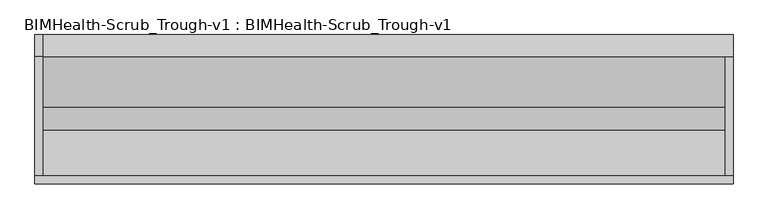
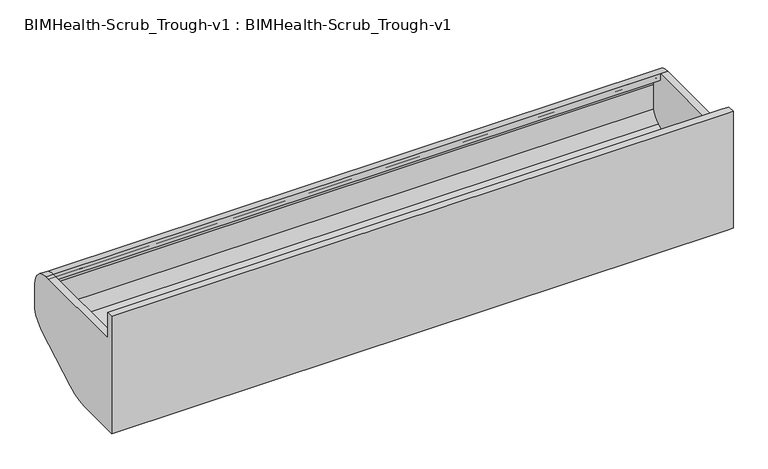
"""IFC4 building model written with IfcOpenShell, lengths in millimetres: furniture geometry, BIMHealth-Scrub_Trough-v1 : BIMHealth-Scrub_Trough-v1."""

from ifc_helpers import new_model, si_unit, frame, origin, place, context, project, spatial, polyline, circle_curve, source, transform, mapped, element, save
from ifc_brep_helpers import plane_surface, cylinder_surface, revolved_surface, advanced_brep


def bimhealth_scrub_trough_v1_bimhealth_scrub_trough_v1_64e28580(model_context):
    return source(origin(), model_context, "Body", "AdvancedBrep", [
        advanced_brep(
        [(-856.6322871, 20.0, 421.2537169), (-856.6322871, 20.0, 166.6601811), (-856.6322871, 134.4044009, 166.6601811), (-856.6322871, 191.8868639, 183.9806892), (-856.6322871, 330.4509285, 263.9806892), (-856.6322871, 355.0919447, 294.1560226), (-856.6322871, 355.0919447, 366.1617722), (-856.6322871, 320.0, 401.2537169), (-856.6322871, 320.0, 421.2537169), (-876.6322871, 20.0, 496.2537169), (-876.6322871, 20.0, 421.2537169), (-876.6322871, 320.0, 421.2537169), (-876.6322871, 375.0919447, 366.1617722), (-876.6322871, 375.0919447, 291.1617722), (-876.6322871, 340.4509285, 246.6601811), (-876.6322871, 201.8868639, 166.6601811), (-876.6322871, 135.0, 146.6601811), (-876.6322871, 0.0, 146.6601811), (-876.6322871, 0.0, 496.2537169), (856.6322871, 20.0, 496.2537169), (876.6322871, 20.0, 496.2537169), (876.6322871, 20.0, 421.2537169), (856.6322871, 20.0, 421.2537169), (856.6322871, 20.0, 166.6601811), (-856.6322871, 375.0919447, 366.1617722), (856.6322871, 375.0919447, 366.1617722), (876.6322871, 375.0919447, 366.1617722), (876.6322871, 375.0919447, 291.1617722), (856.6322871, 375.0919447, 291.1617722), (-856.6322871, 375.0919447, 291.1617722), (-856.6322871, 340.4509285, 246.6601811), (856.6322871, 340.4509285, 246.6601811), (876.6322871, 340.4509285, 246.6601811), (876.6322871, 201.8868639, 166.6601811), (856.6322871, 201.8868639, 166.6601811), (-856.6322871, 201.8868639, 166.6601811), (-856.6322871, 135.0, 146.6601811), (856.6322871, 135.0, 146.6601811), (876.6322871, 135.0, 146.6601811), (876.6322871, 0.0, 146.6601811), (856.6322871, 0.0, 146.6601811), (876.6322871, 0.0, 496.2537169), (856.6322871, 0.0, 496.2537169), (876.6322871, 320.0, 421.2537169), (856.6322871, 134.4044009, 166.6601811), (856.6322871, 191.8868639, 183.9806892), (856.6322871, 330.4509285, 263.9806892), (856.6322871, 355.0919447, 294.1560226), (856.6322871, 355.0919447, 366.1617722), (856.6322871, 320.0, 401.2537169), (856.6322871, 320.0, 421.2537169)],
        [
            (0, 1),
            (1, 2),
            (2, 3, circle_curve(frame((-856.6322871, 126.3135281, 297.5570384), z_axis=(1.0, 0.0, 0.0), x_axis=(0.0, -1.0, 0.0)), 131.1466716)),
            (3, 4),
            (4, 5, circle_curve(frame((-856.6322871, 302.9798936, 311.5619174), z_axis=(1.0, 0.0, 0.0), x_axis=(0.0, -1.0, 0.0)), 54.9420699)),
            (5, 6),
            (6, 7, circle_curve(frame((-856.6322871, 320.0, 366.1617722), z_axis=(1.0, 0.0, 0.0), x_axis=(0.0, -1.0, 0.0)), 35.0919447)),
            (7, 8),
            (8, 0),
            (9, 10),
            (10, 11),
            (11, 12, circle_curve(frame((-876.6322871, 320.0, 366.1617722), z_axis=(-1.0, 0.0, 0.0), x_axis=(0.0, 0.0, 1.0)), 55.0919447)),
            (12, 13),
            (13, 14, circle_curve(frame((-876.6322871, 302.9798936, 311.5619174), z_axis=(-1.0, 0.0, 0.0), x_axis=(0.0, 0.0, 1.0)), 74.9420699)),
            (14, 15),
            (15, 16, circle_curve(frame((-876.6322871, 126.3135281, 297.5570384), z_axis=(-1.0, 0.0, 0.0), x_axis=(0.0, 0.0, 1.0)), 151.1466716)),
            (16, 17),
            (17, 18),
            (18, 9),
            (9, 19),
            (19, 20),
            (20, 21),
            (21, 22),
            (22, 23),
            (23, 1),
            (0, 10),
            (8, 11),
            (8, 24, circle_curve(frame((-856.6322871, 320.0, 366.1617722), z_axis=(-1.0, 0.0, 0.0), x_axis=(0.0, 0.0, 1.0)), 55.0919447)),
            (24, 12),
            (24, 25),
            (25, 26),
            (26, 27),
            (27, 28),
            (28, 29),
            (29, 13),
            (29, 30, circle_curve(frame((-856.6322871, 302.9798936, 311.5619174), z_axis=(-1.0, 0.0, 0.0), x_axis=(0.0, 0.0, 1.0)), 74.9420699)),
            (30, 14),
            (30, 31),
            (31, 32),
            (32, 33),
            (33, 34),
            (34, 35),
            (35, 15),
            (35, 36, circle_curve(frame((-856.6322871, 126.3135281, 297.5570384), z_axis=(-1.0, 0.0, 0.0), x_axis=(0.0, 0.0, 1.0)), 151.1466716)),
            (36, 16),
            (36, 37),
            (37, 38),
            (38, 39),
            (39, 40),
            (40, 17),
            (39, 41),
            (41, 42),
            (42, 18),
            (41, 20),
            (43, 21),
            (38, 33, circle_curve(frame((876.6322871, 126.3135281, 297.5570384), z_axis=(1.0, 0.0, 0.0), x_axis=(0.0, -1.0, 0.0)), 151.1466716)),
            (32, 27, circle_curve(frame((876.6322871, 302.9798936, 311.5619174), z_axis=(1.0, 0.0, 0.0), x_axis=(0.0, -1.0, 0.0)), 74.9420699)),
            (26, 43, circle_curve(frame((876.6322871, 320.0, 366.1617722), z_axis=(1.0, 0.0, 0.0), x_axis=(0.0, -1.0, 0.0)), 55.0919447)),
            (23, 44),
            (44, 2),
            (44, 45, circle_curve(frame((856.6322871, 126.3135281, 297.5570384), z_axis=(1.0, 0.0, 0.0), x_axis=(0.0, -1.0, 0.0)), 131.1466716)),
            (45, 3),
            (45, 46),
            (46, 4),
            (46, 47, circle_curve(frame((856.6322871, 302.9798936, 311.5619174), z_axis=(1.0, 0.0, 0.0), x_axis=(0.0, -1.0, 0.0)), 54.9420699)),
            (47, 5),
            (47, 48),
            (48, 6),
            (48, 49, circle_curve(frame((856.6322871, 320.0, 366.1617722), z_axis=(1.0, 0.0, 0.0), x_axis=(0.0, -1.0, 0.0)), 35.0919447)),
            (49, 7),
            (49, 50),
            (50, 8),
            (50, 43),
            (22, 50),
        ],
        [
            plane_surface(frame((-856.6322871, 20.0, 496.2537169), z_axis=(1.0, 0.0, 0.0), x_axis=(0.0, 0.0, -1.0))),
            plane_surface(frame((-876.6322871, 20.0, 496.2537169), z_axis=(-1.0, 0.0, 0.0), x_axis=(0.0, 0.0, 1.0))),
            plane_surface(frame((-856.6322871, 20.0, 496.2537169), z_axis=(0.0, 1.0, 0.0), x_axis=(-1.0, 0.0, 0.0))),
            plane_surface(frame((-856.6322871, 20.0, 421.2537169), z_axis=(0.0, 0.0, 1.0), x_axis=(-1.0, 0.0, 0.0))),
            cylinder_surface(frame((-876.6322871, 320.0, 366.1617722), z_axis=(1.0, 0.0, 0.0), x_axis=(0.0, 0.0, 1.0)), 55.0919447),
            plane_surface(frame((-856.6322871, 375.0919447, 366.1617722), z_axis=(0.0, 1.0, 0.0), x_axis=(-1.0, 0.0, 0.0))),
            cylinder_surface(frame((-876.6322871, 302.9798936, 311.5619174), z_axis=(1.0, 0.0, 0.0), x_axis=(0.0, 0.0, 1.0)), 74.9420699),
            plane_surface(frame((-856.6322871, 340.4509285, 246.6601811), z_axis=(0.0, 0.500000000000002, -0.8660254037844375), x_axis=(-1.0, 0.0, 0.0))),
            cylinder_surface(frame((-876.6322871, 126.3135281, 297.5570384), z_axis=(1.0, 0.0, 0.0), x_axis=(0.0, 0.0, 1.0)), 151.1466716),
            plane_surface(frame((-856.6322871, 135.0, 146.6601811), z_axis=(0.0, 0.0, -1.0), x_axis=(-1.0, 0.0, 0.0))),
            plane_surface(frame((-856.6322871, 0.0, 146.6601811), z_axis=(0.0, -1.0, 0.0), x_axis=(-1.0, 0.0, 0.0))),
            plane_surface(frame((-856.6322871, 0.0, 496.2537169), z_axis=(0.0, 0.0, 1.0), x_axis=(-1.0, 0.0, 0.0))),
            plane_surface(frame((876.6322871, 20.0, 146.6601811), z_axis=(1.0, 0.0, 0.0), x_axis=(0.0, 0.0, -1.0))),
            plane_surface(frame((876.6322871, 20.0, 166.6601811), z_axis=(0.0, 0.0, 1.0), x_axis=(-1.0, 0.0, 0.0))),
            revolved_surface(polyline([(-856.6322871, -4.833143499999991, 297.5570384), (856.6322871, -4.833143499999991, 297.5570384)]), (-876.6322871, 126.3135281, 297.5570384), (-1.0, 0.0, 0.0)),
            plane_surface(frame((876.6322871, 191.8868639, 183.9806892), z_axis=(0.0, -0.4999999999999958, 0.8660254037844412), x_axis=(-1.0, 0.0, 0.0))),
            revolved_surface(polyline([(-856.6322871, 248.03782370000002, 311.5619174), (856.6322871, 248.03782370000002, 311.5619174)]), (-876.6322871, 302.9798936, 311.5619174), (-1.0, 0.0, 0.0)),
            plane_surface(frame((876.6322871, 355.0919447, 294.1560226), z_axis=(0.0, -1.0, 0.0), x_axis=(-1.0, 0.0, 0.0))),
            revolved_surface(polyline([(-856.6322871, 284.9080553, 366.1617722), (856.6322871, 284.9080553, 366.1617722)]), (-876.6322871, 320.0, 366.1617722), (-1.0, 0.0, 0.0)),
            plane_surface(frame((876.6322871, 320.0, 401.2537169), z_axis=(0.0, -1.0, 0.0), x_axis=(-1.0, 0.0, 0.0))),
            cylinder_surface(frame((-876.6322871, 320.0, 366.1617722), z_axis=(1.0, 0.0, 0.0), x_axis=(0.0, -1.0, 0.0)), 55.0919447),
            cylinder_surface(frame((-876.6322871, 302.9798936, 311.5619174), z_axis=(1.0, 0.0, 0.0), x_axis=(0.0, -1.0, 0.0)), 74.9420699),
            cylinder_surface(frame((-876.6322871, 126.3135281, 297.5570384), z_axis=(1.0, 0.0, 0.0), x_axis=(0.0, -1.0, 0.0)), 151.1466716),
            plane_surface(frame((856.6322871, 20.0, 496.2537169), z_axis=(-1.0, 0.0, 0.0), x_axis=(0.0, 0.0, 1.0))),
            plane_surface(frame((876.6322871, 20.0, 421.2537169), z_axis=(0.0, 0.0, 1.0), x_axis=(-1.0, 0.0, 0.0))),
        ],
        [
            (0, [[1, 2, 3, 4, 5, 6, 7, 8, 9]]),
            (1, [[10, 11, 12, 13, 14, 15, 16, 17, 18, 19]]),
            (2, [[20, 21, 22, 23, 24, 25, -1, 26, -10]]),
            (3, [[27, -11, -26, -9]]),
            (4, [[-27, 28, 29, -12]]),
            (5, [[-29, 30, 31, 32, 33, 34, 35, -13]]),
            (6, [[-35, 36, 37, -14]]),
            (7, [[-37, 38, 39, 40, 41, 42, 43, -15]]),
            (8, [[-43, 44, 45, -16]]),
            (9, [[-45, 46, 47, 48, 49, 50, -17]]),
            (10, [[-50, -49, 51, 52, 53, -18]]),
            (11, [[-53, -52, 54, -21, -20, -19]]),
            (12, [[55, -22, -54, -51, -48, 56, -40, 57, -32, 58]]),
            (13, [[-25, 59, 60, -2]]),
            (14, [[-60, 61, 62, -3]]),
            (15, [[-62, 63, 64, -4]]),
            (16, [[-64, 65, 66, -5]]),
            (17, [[-66, 67, 68, -6]]),
            (18, [[-68, 69, 70, -7]]),
            (19, [[-70, 71, 72, -8]]),
            (20, [[-31, -30, -28, -72, 73, -58]]),
            (21, [[-39, -38, -36, -34, -33, -57]]),
            (22, [[-47, -46, -44, -42, -41, -56]]),
            (23, [[-71, -69, -67, -65, -63, -61, -59, -24, 74]]),
            (24, [[-23, -55, -73, -74]]),
        ],
    ),
    ])


if __name__ == "__main__":
    model = new_model("IFC4")
    model_context = context("Model", 3, world=origin())
    ifc_project = project(units=[si_unit("LENGTHUNIT", "METRE", prefix="MILLI")], contexts=[model_context])
    site = spatial("IfcSite", under=ifc_project)
    building = spatial("IfcBuilding", under=site)
    placement = place(None, origin())
    bimhealth_scrub_trough_v1_bimhealth_scrub_trough_v1_shape = bimhealth_scrub_trough_v1_bimhealth_scrub_trough_v1_64e28580(model_context)
    element("IfcFurniture", 1, ObjectType="BIMHealth-Scrub_Trough-v1 : BIMHealth-Scrub_Trough-v1", at=placement, inside=building, context=model_context, shape_type="MappedRepresentation", body=[
        mapped(bimhealth_scrub_trough_v1_bimhealth_scrub_trough_v1_shape, transform((0.0, 0.0, 0.0), x_axis=(1.0, 0.0, 0.0), y_axis=(0.0, 1.0, 0.0), z_axis=(0.0, 0.0, 1.0))),
    ])
    save(model, "model.ifc")
